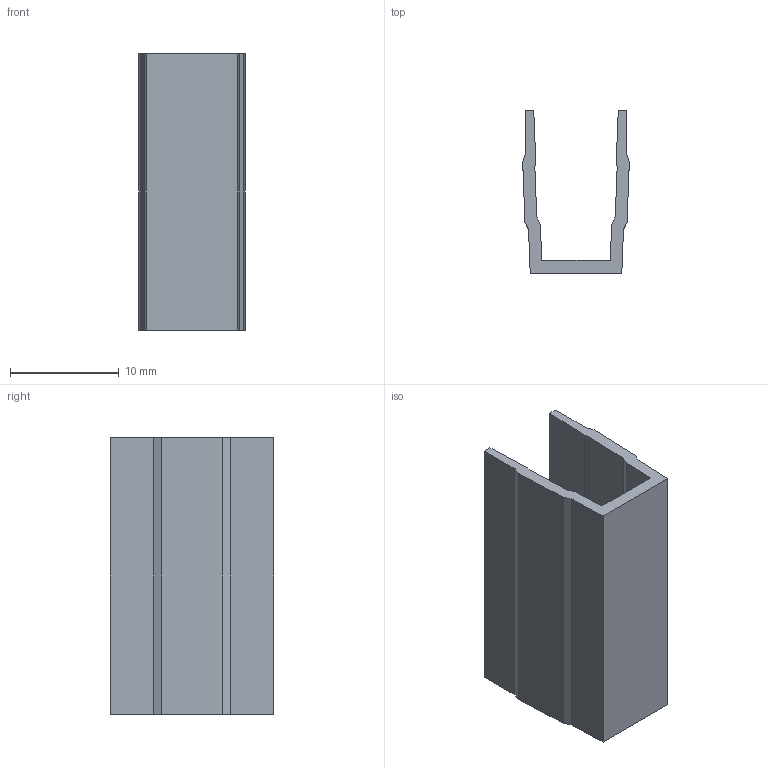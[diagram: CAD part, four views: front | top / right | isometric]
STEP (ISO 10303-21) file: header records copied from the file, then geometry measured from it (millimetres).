
FILE_DESCRIPTION((''),'2;1');
FILE_NAME('C:\Documents and Settings\Administrator\My Documents\Andys Backup Data\STEP LIBRARIES\MINITEC STEP LIBRARIES\EDGE COVER SLIDE AND SEALING PROFILES\22.1072 COVER PROFILE BLUE.stp','2008-10-27T08:00:46',('Administrator'),(''),'Autodesk Inventor 2009','Autodesk Inventor 2009','');
FILE_SCHEMA(('AUTOMOTIVE_DESIGN { 1 0 10303 214 1 1 1 1 }'));
Length unit declared in the file: inch
Products named in the file (1): 22.1070 COVER PROFILE BLACK
Bounding box: 9.79 x 15 x 25.4 mm (x, y, z)
Volume: 979.5 mm3; surface area: 1962.4 mm2
Topology: 1 solids, 1 shells, 26 faces, 72 edges, 48 vertices
Faces by surface type: plane 26
Entity records: 844 total; most frequent: CARTESIAN_POINT 147, ORIENTED_EDGE 144, DIRECTION 126, VECTOR 72, LINE 72, EDGE_CURVE 72, VERTEX_POINT 48, AXIS2_PLACEMENT_3D 27
